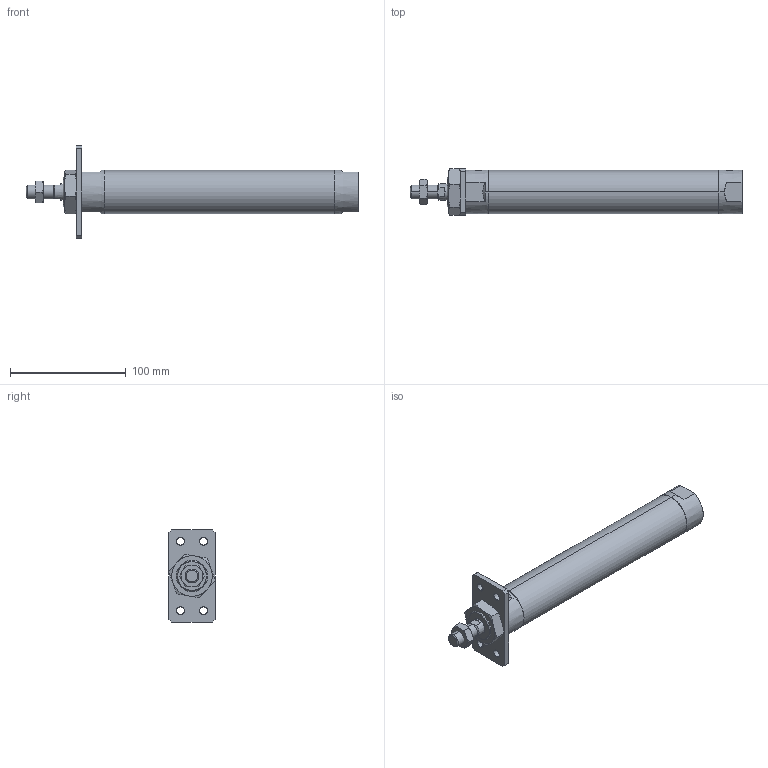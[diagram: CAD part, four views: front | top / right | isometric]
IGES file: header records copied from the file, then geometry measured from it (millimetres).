
Start section: SolidWorks IGES file using analytic representation for surfaces
Global section: file name: C:\Users\Toshiba\Desktop\JGND2-32-150-A.IGS; native system: SolidWorks 2014; preprocessor: SolidWorks 2014; author: Toshiba; date: 160804.105422; units: millimetre
Bounding box: 287 x 40 x 80 mm (x, y, z)
Surface area: 45193.8 mm2 (no closed solid volume)
Topology: 0 solids, 0 shells, 109 faces, 1980 edges, 1976 vertices
Faces by surface type: bspline 66, revolution 43
